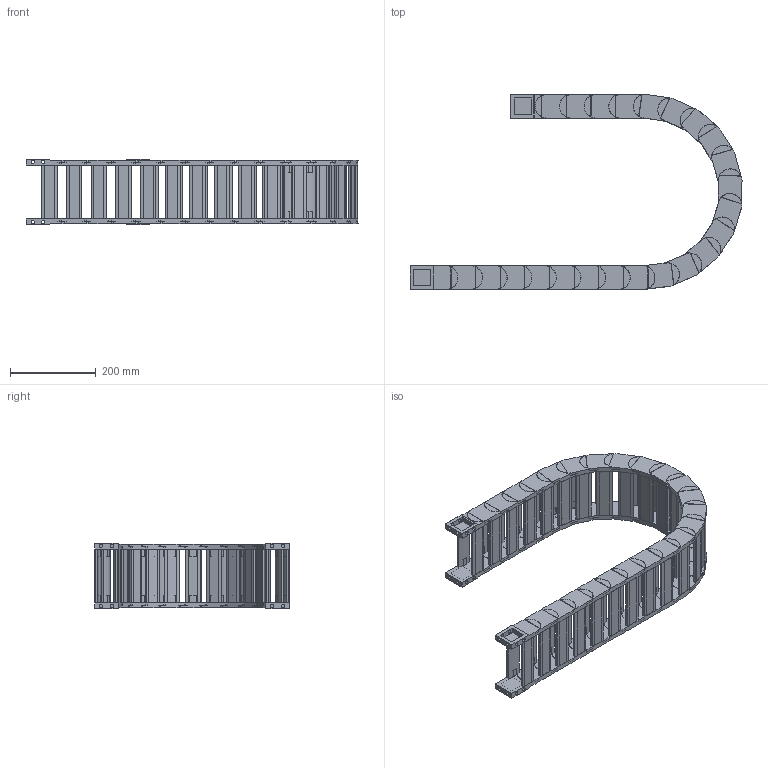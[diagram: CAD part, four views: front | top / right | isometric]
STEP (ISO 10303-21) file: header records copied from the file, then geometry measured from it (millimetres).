
FILE_DESCRIPTION((''),'2;1');
FILE_NAME('HD35-R200-ZPT_ASM','2022-06-17T13:51:23',('admin'),(''),'CREO PARAMETRIC BY PTC INC, 2021164','CREO PARAMETRIC BY PTC INC, 2021164','');
FILE_SCHEMA(('CONFIG_CONTROL_DESIGN','GEOMETRIC_VALIDATION_PROPERTIES_MIM'));
Length unit declared in the file: millimetre
Products named in the file (6): HD35; 35-600001; HD35_ASM; 35-TL_11; 35-WL; HD35-R200-ZPT_ASM
Assembly tree (29 placements, depth 3):
  HD35-R200-ZPT_ASM
    HD35_ASM  x23
      HD35
      35-600001
    35-TL_11
    35-WL
    35-600001  x2
Bounding box: 775.24 x 454.93 x 153.4 mm (x, y, z)
Volume: 3843825.4 mm3; surface area: 1347227.1 mm2
Topology: 100 solids, 100 shells, 1858 faces, 4946 edges, 3392 vertices
Faces by surface type: plane 1268, cylinder 590
Entity records: 9467 total; most frequent: DIRECTION 1432, CARTESIAN_POINT 1422, ORIENTED_EDGE 1300, EDGE_CURVE 650, AXIS2_PLACEMENT_3D 511, VERTEX_POINT 440, VECTOR 410, LINE 410
